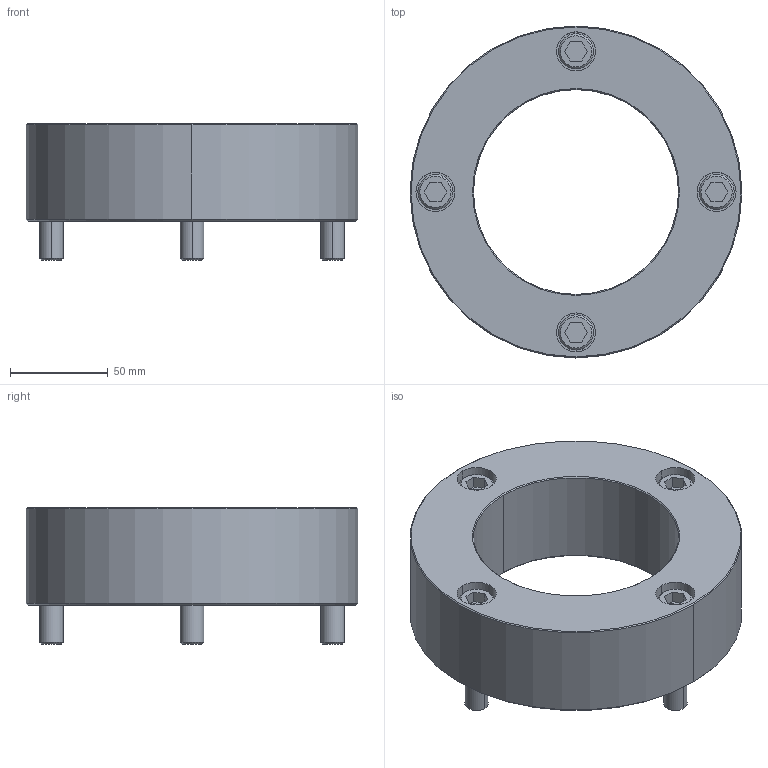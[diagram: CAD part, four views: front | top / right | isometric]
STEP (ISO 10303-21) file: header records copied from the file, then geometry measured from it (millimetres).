
FILE_DESCRIPTION((''),'2;1');
FILE_NAME('','2010-08-30T17:31:40+09:00',('misumi'),(''),'M/STEP i/f 1R2-14','CADmeister v5.1','');
FILE_SCHEMA(('AUTOMOTIVE_DESIGN'));
Length unit declared in the file: millimetre
Products named in the file (1): KEB100-50-R
Bounding box: 170 x 170 x 70 mm (x, y, z)
Volume: 695846.1 mm3; surface area: 92855.7 mm2
Topology: 5 solids, 5 shells, 106 faces, 228 edges, 144 vertices
Faces by surface type: plane 46, cylinder 36, cone 24
Entity records: 3030 total; most frequent: DIRECTION 538, CARTESIAN_POINT 479, ORIENTED_EDGE 456, EDGE_CURVE 228, AXIS2_PLACEMENT_3D 203, VERTEX_POINT 144, LINE 132, VECTOR 132
